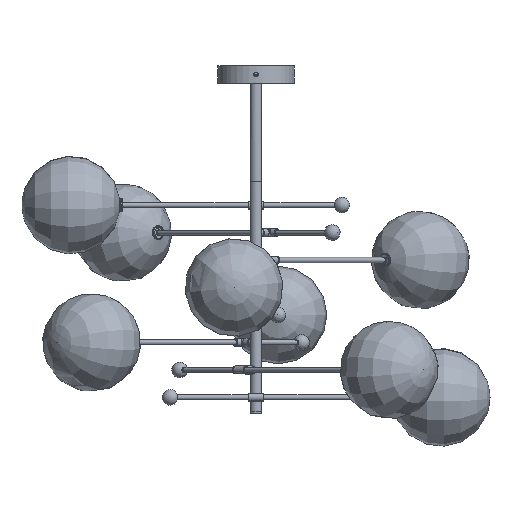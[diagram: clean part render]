
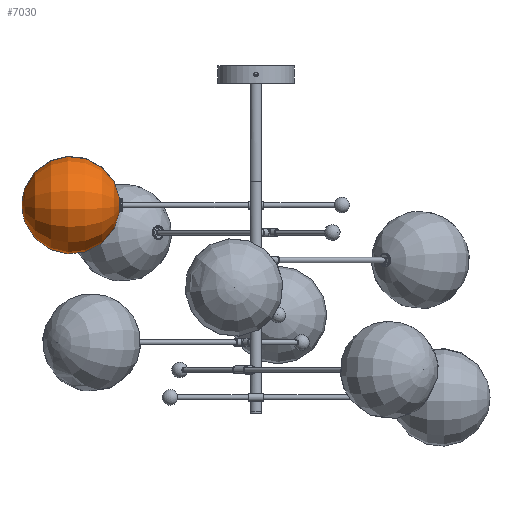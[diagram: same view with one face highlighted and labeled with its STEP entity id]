
A CAD part, front view. The second image highlights one B-rep face of the part: STEP entity #7030.
In plain terms, the highlighted free-form (B-spline) face has degree [2, 2] with [5, 9] control points.
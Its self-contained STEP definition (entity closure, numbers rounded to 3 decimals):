
#129=(
BOUNDED_SURFACE()
B_SPLINE_SURFACE(2,2,((#11303,#11304,#11305,#11306,#11307,#11308,#11309,
#11310,#11311),(#11312,#11313,#11314,#11315,#11316,#11317,#11318,#11319,
#11320),(#11321,#11322,#11323,#11324,#11325,#11326,#11327,#11328,#11329),
(#11330,#11331,#11332,#11333,#11334,#11335,#11336,#11337,#11338),(#11339,
#11340,#11341,#11342,#11343,#11344,#11345,#11346,#11347)),.UNSPECIFIED.,
 .F.,.T.,.F.)
B_SPLINE_SURFACE_WITH_KNOTS((3,2,3),(3,2,2,2,3),(-1.572,-0.066,
1.439),(-3.142,-1.571,0.,1.571,
3.142),.UNSPECIFIED.)
GEOMETRIC_REPRESENTATION_ITEM()
RATIONAL_B_SPLINE_SURFACE(((1.,0.707,1.,0.707,1.,
0.707,1.,0.707,1.),(0.73,0.516,
0.73,0.516,0.73,0.516,
0.73,0.516,0.73),(1.,0.707,
1.,0.707,1.,0.707,1.,0.707,1.),(0.73,
0.516,0.73,0.516,0.73,
0.516,0.73,0.516,0.73),
(1.,0.707,1.,0.707,1.,0.707,1.,0.707,
1.)))
REPRESENTATION_ITEM('')
SURFACE()
);
#641=FACE_OUTER_BOUND('',#1156,.T.);
#1156=EDGE_LOOP('',(#4898,#4899,#4900,#4901));
#2534=CIRCLE('',#7628,16.5);
#2535=CIRCLE('',#7629,16.5);
#2536=CIRCLE('',#7630,125.);
#3118=VERTEX_POINT('',#11298);
#3119=VERTEX_POINT('',#11299);
#3120=VERTEX_POINT('',#11348);
#3820=EDGE_CURVE('',#3118,#3119,#2534,.T.);
#3822=EDGE_CURVE('',#3119,#3118,#2535,.T.);
#3823=EDGE_CURVE('',#3119,#3120,#2536,.T.);
#4898=ORIENTED_EDGE('',*,*,#3820,.T.);
#4899=ORIENTED_EDGE('',*,*,#3823,.T.);
#4900=ORIENTED_EDGE('',*,*,#3823,.F.);
#4901=ORIENTED_EDGE('',*,*,#3822,.T.);
#7030=ADVANCED_FACE('',(#641),#129,.F.);
#7628=AXIS2_PLACEMENT_3D('',#11300,#8808,#8809);
#7629=AXIS2_PLACEMENT_3D('',#11302,#8811,#8812);
#7630=AXIS2_PLACEMENT_3D('',#11349,#8813,#8814);
#8808=DIRECTION('center_axis',(-1.,0.,0.));
#8809=DIRECTION('ref_axis',(0.,0.321,-0.947));
#8811=DIRECTION('center_axis',(-1.,0.,0.));
#8812=DIRECTION('ref_axis',(0.,0.321,-0.947));
#8813=DIRECTION('center_axis',(0.,-0.083,
0.997));
#8814=DIRECTION('ref_axis',(0.,0.997,0.083));
#11298=CARTESIAN_POINT('',(-347.43,50.701,630.737));
#11299=CARTESIAN_POINT('',(-347.43,72.443,616.481));
#11300=CARTESIAN_POINT('Origin',(-347.43,56.,615.111));
#11302=CARTESIAN_POINT('Origin',(-347.43,56.,615.111));
#11303=CARTESIAN_POINT('Ctrl Pts',(-596.351,56.,615.111));
#11304=CARTESIAN_POINT('Ctrl Pts',(-596.351,56.,615.111));
#11305=CARTESIAN_POINT('Ctrl Pts',(-596.351,56.,615.111));
#11306=CARTESIAN_POINT('Ctrl Pts',(-596.351,56.,615.111));
#11307=CARTESIAN_POINT('Ctrl Pts',(-596.351,56.,615.111));
#11308=CARTESIAN_POINT('Ctrl Pts',(-596.351,56.,615.111));
#11309=CARTESIAN_POINT('Ctrl Pts',(-596.351,56.,615.111));
#11310=CARTESIAN_POINT('Ctrl Pts',(-596.351,56.,615.111));
#11311=CARTESIAN_POINT('Ctrl Pts',(-596.351,56.,615.111));
#11312=CARTESIAN_POINT('Ctrl Pts',(-596.455,172.688,624.838));
#11313=CARTESIAN_POINT('Ctrl Pts',(-596.455,162.961,741.525));
#11314=CARTESIAN_POINT('Ctrl Pts',(-596.455,46.273,731.798));
#11315=CARTESIAN_POINT('Ctrl Pts',(-596.455,-70.415,722.072));
#11316=CARTESIAN_POINT('Ctrl Pts',(-596.455,-60.688,605.384));
#11317=CARTESIAN_POINT('Ctrl Pts',(-596.455,-50.961,488.696));
#11318=CARTESIAN_POINT('Ctrl Pts',(-596.455,65.727,498.423));
#11319=CARTESIAN_POINT('Ctrl Pts',(-596.455,182.415,508.15));
#11320=CARTESIAN_POINT('Ctrl Pts',(-596.455,172.688,624.838));
#11321=CARTESIAN_POINT('Ctrl Pts',(-479.619,180.406,625.481));
#11322=CARTESIAN_POINT('Ctrl Pts',(-479.619,170.035,749.887));
#11323=CARTESIAN_POINT('Ctrl Pts',(-479.619,45.63,739.516));
#11324=CARTESIAN_POINT('Ctrl Pts',(-479.619,-78.776,
729.146));
#11325=CARTESIAN_POINT('Ctrl Pts',(-479.619,-68.406,
604.741));
#11326=CARTESIAN_POINT('Ctrl Pts',(-479.619,-58.035,
480.335));
#11327=CARTESIAN_POINT('Ctrl Pts',(-479.619,66.37,490.705));
#11328=CARTESIAN_POINT('Ctrl Pts',(-479.619,190.776,501.075));
#11329=CARTESIAN_POINT('Ctrl Pts',(-479.619,180.406,625.481));
#11330=CARTESIAN_POINT('Ctrl Pts',(-362.783,188.123,626.124));
#11331=CARTESIAN_POINT('Ctrl Pts',(-362.783,177.11,758.248));
#11332=CARTESIAN_POINT('Ctrl Pts',(-362.783,44.986,747.234));
#11333=CARTESIAN_POINT('Ctrl Pts',(-362.783,-87.137,
736.221));
#11334=CARTESIAN_POINT('Ctrl Pts',(-362.783,-76.123,
604.097));
#11335=CARTESIAN_POINT('Ctrl Pts',(-362.783,-65.11,471.974));
#11336=CARTESIAN_POINT('Ctrl Pts',(-362.783,67.014,482.987));
#11337=CARTESIAN_POINT('Ctrl Pts',(-362.783,199.137,494.001));
#11338=CARTESIAN_POINT('Ctrl Pts',(-362.783,188.123,626.124));
#11339=CARTESIAN_POINT('Ctrl Pts',(-347.43,72.443,616.481));
#11340=CARTESIAN_POINT('Ctrl Pts',(-347.43,71.072,632.924));
#11341=CARTESIAN_POINT('Ctrl Pts',(-347.43,54.629,631.554));
#11342=CARTESIAN_POINT('Ctrl Pts',(-347.43,38.186,630.183));
#11343=CARTESIAN_POINT('Ctrl Pts',(-347.43,39.557,613.74));
#11344=CARTESIAN_POINT('Ctrl Pts',(-347.43,40.928,597.297));
#11345=CARTESIAN_POINT('Ctrl Pts',(-347.43,57.371,598.668));
#11346=CARTESIAN_POINT('Ctrl Pts',(-347.43,73.814,600.038));
#11347=CARTESIAN_POINT('Ctrl Pts',(-347.43,72.443,616.481));
#11348=CARTESIAN_POINT('',(-596.351,56.,615.111));
#11349=CARTESIAN_POINT('Origin',(-471.351,56.11,615.12));
